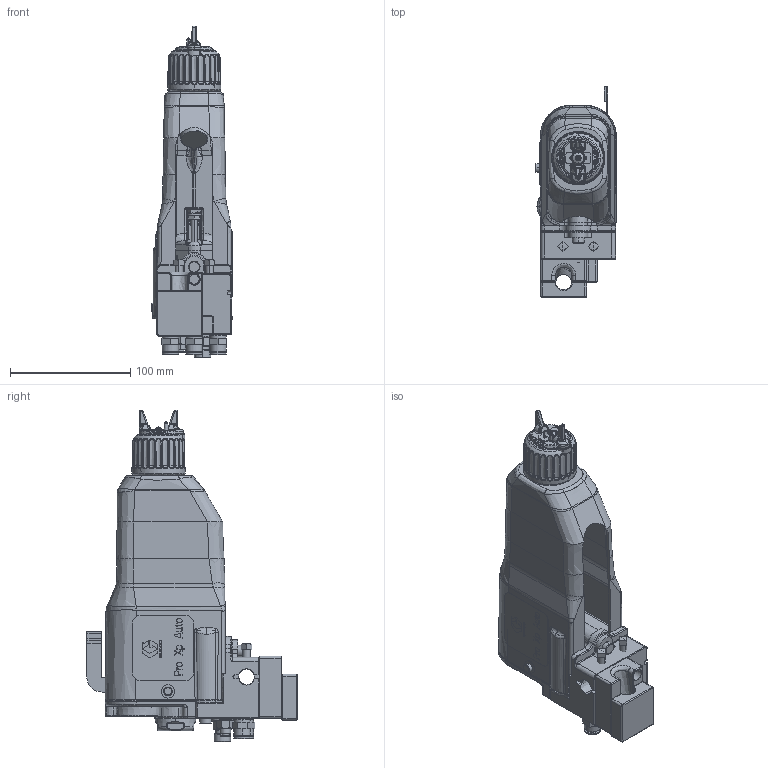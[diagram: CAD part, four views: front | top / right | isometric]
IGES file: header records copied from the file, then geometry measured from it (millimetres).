
Start section:  PTC IGES file: ha1m18-en-k.igs
Global section: file name: ha1m18-en-k.igs; native system: Creo Parametric by PTC Inc.; preprocessor: 2019030; author: qusrh3; organization: Unknown; date: 20200101.120843; units: inch
Bounding box: 67.94 x 174.88 x 275.71 mm (x, y, z)
Surface area: 205356.5 mm2 (no closed solid volume)
Topology: 0 solids, 0 shells, 2418 faces, 12004 edges, 11996 vertices
Faces by surface type: bspline 1621, revolution 767, extrusion 30
